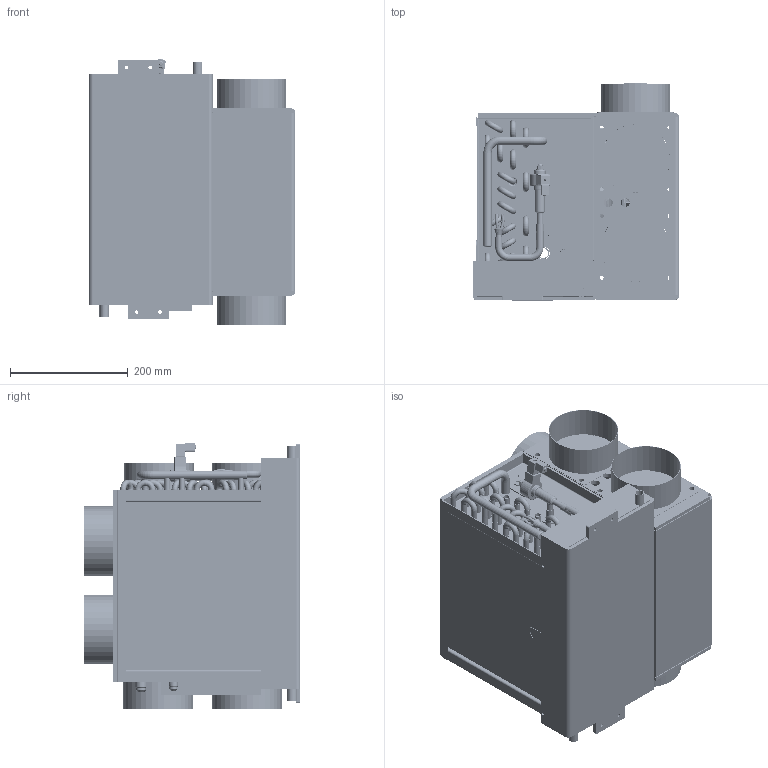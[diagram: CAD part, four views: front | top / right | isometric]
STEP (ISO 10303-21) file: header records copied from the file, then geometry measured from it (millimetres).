
FILE_DESCRIPTION(/* description */ ('STEP AP214'),/* implementation_level */ '2;1');
FILE_NAME(/* name */ 'D:\QSync\Disegni\01_Prodotti\MRMAXI30_HR12\01_Versione 2023\03_File CAD per esportazione\MRMAXI30_HR12.stp',/* time_stamp */ '2022-10-26T08:49:11+02:00',/* author */ ('CAD 1'),/* organization */ (''),/* preprocessor_version */ 'ST-DEVELOPER v18.1',/* originating_system */ 'Autodesk Inventor 2021',/* authorisation */ '');
FILE_SCHEMA (('AUTOMOTIVE_DESIGN { 1 0 10303 214 3 1 1 }'));
Products named in the file (46): MRMAXI30_HR12; Hydro_Connection_3_8; Hydro_Connection_1_2; MRS_075; MRS_071_22; MRS_070_23; HR08_021; HR12_030; MRM30_12; HR08_042; HR08_052; HR12_010; MRM30_21; MRS_030; MRS_020; Valvola E2V; Bobina; Cappuccio; Connettore; Canalina; Tubo RK20; pressacavo_DN 16; Pressacavo PG9; pressacavo_DN 9; Termostato Bimetallico; Corpo valvola; FONO_016; FONO_015; Lorenzoni_U_70mm; ISO_HR12_010; ISO_HR12_020; ISO_HR12_030; l-al-6145-00-gr22v-4ip_z8_br; LO69_000; LO69_Pacco; LO69.B_000; LO69.A_000; Forcina_25_h18_15; GZ25_G0; 2010_00_2010.02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
Assembly tree (137 placements, depth 4):
  MRMAXI30_HR12
    Hydro_Connection_3_8
    Hydro_Connection_1_2
    MRS_075  x6
      MRS_071_22
      MRS_070_23
    HR08_021
    HR12_030
    MRM30_12
    HR08_042
    HR08_052
    HR12_010
    MRM30_21
    MRS_030  x2
    MRS_020  x2
    Valvola E2V
      Bobina
      Cappuccio
      Connettore
    Canalina
    Tubo RK20
    pressacavo_DN 16
    Pressacavo PG9
    pressacavo_DN 9
    Termostato Bimetallico
    Corpo valvola
    FONO_016
    FONO_015
    Lorenzoni_U_70mm
    ISO_HR12_010
    ISO_HR12_020  x2
    ISO_HR12_030
    l-al-6145-00-gr22v-4ip_z8_br
    LO69_000
      LO69_Pacco
      LO69.B_000
      LO69.A_000
      imbocco_N_10_20R  x44
      Forcina_25_h18_15  x22
      GZ25_G0
      2010_00_2010.02  x19
      GZ25.I_004
        1020_03
        GZ25.I_004_1
        GZ25_I0_CAPILL  x3
      GZ25.L_003
Bounding box: 350 x 367.5 x 452.23 mm (x, y, z)
Volume: 13662558 mm3; surface area: 4455804.1 mm2
Topology: 145 solids, 167 shells, 11487 faces, 30465 edges, 20520 vertices
Faces by surface type: plane 8620, cylinder 1745, bspline 454, cone 446, torus 199, sphere 23
Full cylindrical faces by diameter (mm): 1.7 x2, 2 x3, 2.5 x2, 3 x3, 3.2 x11, 3.25 x10, 3.3 x4, 4 x8, 4.2 x33, 4.5 x25, 4.6 x6, 5 x10, 5.2 x7, 5.5 x4, 5.8 x7, 6 x8, 6.5 x1, 6.8 x24, 7.52 x3, 8 x2, 8.22 x44, 8.52 x44, 8.92 x44, 9 x27, 9.12 x44, 9.144 x1, 9.18 x38, 9.32 x22, 9.52 x135, 9.6 x44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
Entity records: 353314 total; most frequent: CARTESIAN_POINT 95460, ORIENTED_EDGE 54564, DIRECTION 49717, EDGE_CURVE 27282, LINE 20497, VECTOR 20497, VERTEX_POINT 18104, AXIS2_PLACEMENT_3D 14610
